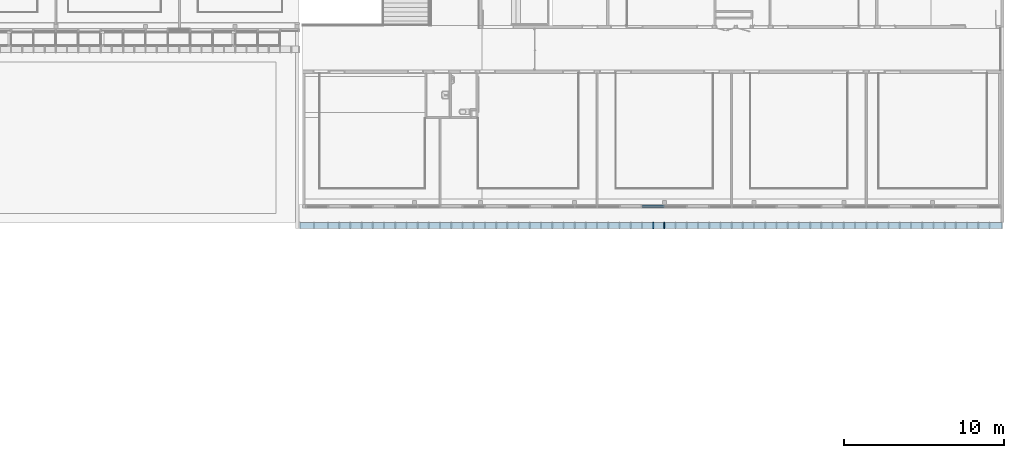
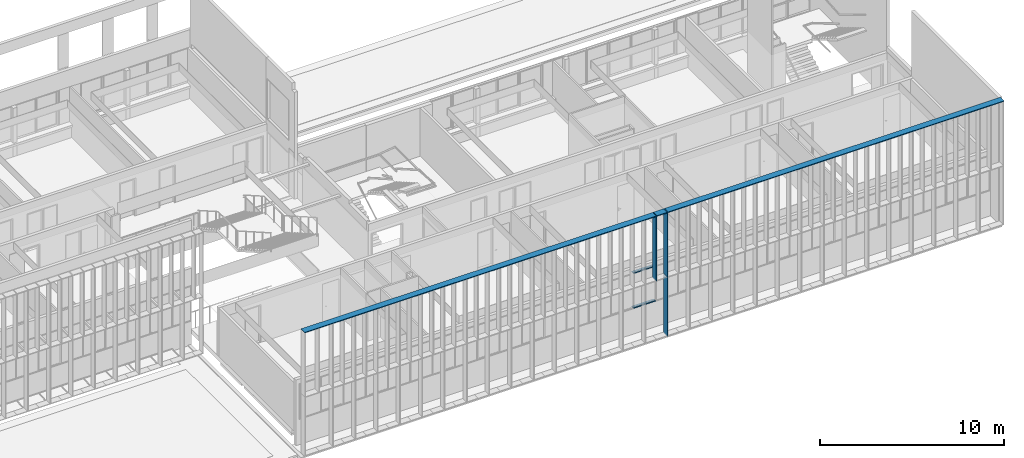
# One storey, part 13 of 106: 6 members, 2 elements without a shape of their own.
"""IFC2X3 building model written with IfcOpenShell, lengths in centimetres."""

from ifc_helpers import new_model, entity, si_unit, converted_unit, derived_unit, direction, frame, origin, origin_2d_with_axis, place, context, subcontext, project, spatial, polyline, rectangle, outline, extrude, source, transform, mapped, material, type_object, type_shapes, element, aggregate, save


model = new_model("IFC2X3")

# Units and contexts
model_context = context("Model", 3, precision=0.001, world=origin(), true_north=direction((6.12303176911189e-17, 1.0)))
body_context = subcontext(model_context, "Body", "Model", "MODEL_VIEW")
ifc_project = project(units=[si_unit("LENGTHUNIT", "METRE", prefix="CENTI"), si_unit("AREAUNIT", "SQUARE_METRE"), si_unit("VOLUMEUNIT", "CUBIC_METRE"), converted_unit("PLANEANGLEUNIT", "DEGREE", entity("IfcRatioMeasure", 0.0174532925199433), si_unit("PLANEANGLEUNIT", "RADIAN"), dimensions=[0, 0, 0, 0, 0, 0, 0]), si_unit("MASSUNIT", "GRAM", prefix="KILO"), derived_unit("MASSDENSITYUNIT", [(si_unit("MASSUNIT", "GRAM", prefix="KILO"), 1), (si_unit("LENGTHUNIT", "METRE"), -3)]), si_unit("TIMEUNIT", "SECOND"), si_unit("FREQUENCYUNIT", "HERTZ"), si_unit("THERMODYNAMICTEMPERATUREUNIT", "DEGREE_CELSIUS"), derived_unit("THERMALTRANSMITTANCEUNIT", [(si_unit("MASSUNIT", "GRAM", prefix="KILO"), 1), (si_unit("THERMODYNAMICTEMPERATUREUNIT", "KELVIN"), -1), (si_unit("TIMEUNIT", "SECOND"), -3)]), derived_unit("VOLUMETRICFLOWRATEUNIT", [(si_unit("LENGTHUNIT", "METRE"), 3), (si_unit("TIMEUNIT", "SECOND"), -1)]), si_unit("ELECTRICCURRENTUNIT", "AMPERE"), si_unit("ELECTRICVOLTAGEUNIT", "VOLT"), si_unit("POWERUNIT", "WATT"), si_unit("FORCEUNIT", "NEWTON", prefix="KILO"), si_unit("ILLUMINANCEUNIT", "LUX"), si_unit("LUMINOUSFLUXUNIT", "LUMEN"), si_unit("LUMINOUSINTENSITYUNIT", "CANDELA"), derived_unit("USERDEFINED", [(si_unit("MASSUNIT", "GRAM", prefix="KILO"), -1), (si_unit("LENGTHUNIT", "METRE"), -2), (si_unit("TIMEUNIT", "SECOND"), 3), (si_unit("LUMINOUSFLUXUNIT", "LUMEN"), 1)]), derived_unit("LINEARVELOCITYUNIT", [(si_unit("LENGTHUNIT", "METRE"), 1), (si_unit("TIMEUNIT", "SECOND"), -1)]), si_unit("PRESSUREUNIT", "PASCAL"), derived_unit("USERDEFINED", [(si_unit("LENGTHUNIT", "METRE"), -2), (si_unit("MASSUNIT", "GRAM", prefix="KILO"), 1), (si_unit("TIMEUNIT", "SECOND"), -2)])], contexts=[model_context])

# Site, building, storey
site_placement = place(None, frame((-2781.94577612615, 7442.24238424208, 0.0)))
site = spatial("IfcSite", under=ifc_project, at=site_placement, Name="Default", CompositionType="ELEMENT")
building_placement = place(site_placement, origin())
building = spatial("IfcBuilding", under=site, at=building_placement, CompositionType="ELEMENT")
storey_placement = place(building_placement, frame((0.0, 0.0, 422.0)))
storey = spatial("IfcBuildingStorey", under=building, at=storey_placement, Name="Toiture - Cuisine", CompositionType="ELEMENT", Elevation=421.999999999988)

# Curtain wall, members
curtain_wall_type_1 = type_object("IfcCurtainWallType", Name="Mur-rideau:07 - mur rideau trame 140 cm", PredefinedType="NOTDEFINED")
curtain_wall_1_placement = place(building_placement, origin())
curtain_wall_1 = element("IfcCurtainWall", 1, at=curtain_wall_1_placement, inside=storey, type_object=curtain_wall_type_1, Name="Mur-rideau:07 - mur rideau trame 140 cm", ObjectType="Mur-rideau:07 - mur rideau trame 140 cm")
ifc_material = material(Name="Aluminium")
member_type_1 = type_object("IfcMemberType", Name="150 x 25mm Détails", PredefinedType="MEMBER")
shared_shape_1 = source(origin(), body_context, "Body", "SweptSolid", [
    extrude(outline(polyline([(-5.6666666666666, -3.24999999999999), (-3.66666666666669, -3.24999999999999), (-3.66666666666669, -0.868749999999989), (-0.166666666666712, -0.868749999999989), (-0.166666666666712, -3.25000000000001), (13.3333333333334, -3.25000000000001), (13.3333333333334, 3.24999999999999), (-0.16666666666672, 3.24999999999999), (-0.16666666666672, 0.868749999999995), (-3.66666666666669, 0.868749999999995), (-3.66666666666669, 3.25), (-5.6666666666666, 3.25), (-5.6666666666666, -3.24999999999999)])), frame((-3.24999999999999, -1.96666666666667, -140.0), z_axis=(0.0, 0.0, 1.0), x_axis=(0.0, -1.0, 0.0)), (0.0, 0.0, 1.0), 140.000000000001),
])
type_shapes(member_type_1, [shared_shape_1])
member_1_placement = place(building_placement, frame((-2510.29988284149, -3046.51349958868, 743.0), z_axis=(1.0, 0.0, 0.0), x_axis=(0.0, 0.0, 1.0)))
member_1 = element("IfcMember", 2, at=member_1_placement, type_object=member_type_1, material=ifc_material, Name="Meneau rectangulaire:150 x 25mm Détails", ObjectType="Meneau rectangulaire:150 x 25mm Détails", context=body_context, shape_type="MappedRepresentation", body=[
    mapped(shared_shape_1, transform((0.0, 0.0, 0.0), scale=1.0)),
])
member_type_2 = type_object("IfcMemberType", Name="150 x 25mm Détails", PredefinedType="MEMBER")
shared_shape_2 = source(origin(), body_context, "Body", "SweptSolid", [
    extrude(outline(polyline([(-5.66666666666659, -3.25), (-3.66666666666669, -3.25), (-3.66666666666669, -0.868749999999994), (-0.166666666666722, -0.868749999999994), (-0.166666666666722, -3.25000000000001), (13.3333333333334, -3.24999999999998), (13.3333333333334, 3.25000000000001), (-0.166666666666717, 3.25000000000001), (-0.166666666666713, 0.868749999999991), (-3.66666666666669, 0.868749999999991), (-3.66666666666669, 3.24999999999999), (-5.66666666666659, 3.24999999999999), (-5.66666666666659, -3.25)])), frame((-3.24999999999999, -1.96666666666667, -140.0), z_axis=(0.0, 0.0, 1.0), x_axis=(0.0, -1.0, 0.0)), (0.0, 0.0, 1.0), 140.000000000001),
])
type_shapes(member_type_2, [shared_shape_2])
member_2_placement = place(building_placement, frame((-2650.29988284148, -3046.51349958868, 505.500000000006), z_axis=(-1.0, 0.0, 0.0), x_axis=(0.0, 0.0, -1.0)))
member_2 = element("IfcMember", 3, at=member_2_placement, type_object=member_type_2, material=ifc_material, Name="Meneau rectangulaire:150 x 25mm Détails", ObjectType="Meneau rectangulaire:150 x 25mm Détails", context=body_context, shape_type="MappedRepresentation", body=[
    mapped(shared_shape_2, transform((0.0, 0.0, 0.0), scale=1.0)),
])
aggregate(curtain_wall_1, [member_1, member_2])

curtain_wall_type_2 = type_object("IfcCurtainWallType", Name="Mur-rideau:Epines - 400x30mm", PredefinedType="NOTDEFINED")
curtain_wall_2_placement = place(building_placement, origin())
curtain_wall_2 = element("IfcCurtainWall", 4, at=curtain_wall_2_placement, inside=storey, type_object=curtain_wall_type_2, Name="Mur-rideau:Epines - 400x30mm", ObjectType="Mur-rideau:Epines - 400x30mm")
member_type_3 = type_object("IfcMemberType", Name="Epine sud (400x50 mm)", PredefinedType="MEMBER")
shared_shape_3 = source(origin(), body_context, "Body", "SweptSolid", [
    extrude(rectangle(XDim=40.0, YDim=5.0, at=origin_2d_with_axis()), frame((0.0, 0.0, -392.5), z_axis=(0.0, 0.0, 1.0), x_axis=(0.0, -1.0, 0.0)), (0.0, 0.0, 1.0), 392.5),
])
type_shapes(member_type_3, [shared_shape_3])
member_3_placement = place(building_placement, frame((-2510.49987760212, -3160.31349958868, 353.0), z_axis=(0.0, 0.0, -1.0), x_axis=(1.0, 0.0, 0.0)))
member_3 = element("IfcMember", 5, at=member_3_placement, type_object=member_type_3, material=ifc_material, Name="Meneau rectangulaire:Epine sud (400x50 mm)", ObjectType="Meneau rectangulaire:Epine sud (400x50 mm)", context=body_context, shape_type="MappedRepresentation", body=[
    mapped(shared_shape_3, transform((0.0, 0.0, 0.0), scale=1.0)),
])
member_type_4 = type_object("IfcMemberType", Name="Epine sud (400x50 mm)", PredefinedType="MEMBER")
shared_shape_4 = source(origin(), body_context, "Body", "SweptSolid", [
    extrude(rectangle(XDim=40.0, YDim=5.0, at=origin_2d_with_axis()), frame((0.0, 0.0, -430.5), z_axis=(0.0, 0.0, 1.0), x_axis=(0.0, -1.0, 0.0)), (0.0, 0.0, 1.0), 430.5),
])
type_shapes(member_type_4, [shared_shape_4])
member_4_placement = place(building_placement, frame((-2510.49987760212, -3160.31349958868, 745.5), z_axis=(0.0, 0.0, -1.0), x_axis=(1.0, 0.0, 0.0)))
member_4 = element("IfcMember", 6, at=member_4_placement, type_object=member_type_4, material=ifc_material, Name="Meneau rectangulaire:Epine sud (400x50 mm)", ObjectType="Meneau rectangulaire:Epine sud (400x50 mm)", context=body_context, shape_type="MappedRepresentation", body=[
    mapped(shared_shape_4, transform((0.0, 0.0, 0.0), scale=1.0)),
])
member_type_5 = type_object("IfcMemberType", Name="Epine sud (400x50 mm)", PredefinedType="MEMBER")
shared_shape_5 = source(origin(), body_context, "Body", "SweptSolid", [
    extrude(rectangle(XDim=40.0, YDim=5.0, at=origin_2d_with_axis()), frame((-2.5, 0.0, -4388.0), z_axis=(0.0, 0.0, 1.0), x_axis=(0.0, -1.0, 0.0)), (0.0, 0.0, 1.0), 4387.99999476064),
])
type_shapes(member_type_5, [shared_shape_5])
member_5_placement = place(building_placement, frame((-399.999882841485, -3160.31349958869, 1176.0), z_axis=(1.0, 0.0, 0.0), x_axis=(0.0, 0.0, 1.0)))
member_5 = element("IfcMember", 7, at=member_5_placement, type_object=member_type_5, material=ifc_material, Name="Meneau rectangulaire:Epine sud (400x50 mm)", ObjectType="Meneau rectangulaire:Epine sud (400x50 mm)", context=body_context, shape_type="MappedRepresentation", body=[
    mapped(shared_shape_5, transform((0.0, 0.0, 0.0), scale=1.0)),
])
member_type_6 = type_object("IfcMemberType", Name="Epine sud (400x50 mm)", PredefinedType="MEMBER")
shared_shape_6 = source(origin(), body_context, "Body", "SweptSolid", [
    extrude(rectangle(XDim=40.0, YDim=5.0, at=origin_2d_with_axis()), frame((0.0, 0.0, -433.0), z_axis=(0.0, 0.0, 1.0), x_axis=(0.0, -1.0, 0.0)), (0.0, 0.0, 1.0), 433.0),
])
type_shapes(member_type_6, [shared_shape_6])
member_6_placement = place(building_placement, frame((-2580.49987760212, -3160.31349958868, 743.0), z_axis=(0.0, 0.0, -1.0), x_axis=(1.0, 0.0, 0.0)))
member_6 = element("IfcMember", 8, at=member_6_placement, type_object=member_type_6, material=ifc_material, Name="Meneau rectangulaire:Epine sud (400x50 mm)", ObjectType="Meneau rectangulaire:Epine sud (400x50 mm)", context=body_context, shape_type="MappedRepresentation", body=[
    mapped(shared_shape_6, transform((0.0, 0.0, 0.0), scale=1.0)),
])
aggregate(curtain_wall_2, [member_3, member_4, member_5, member_6])

save(model, "model.ifc")
